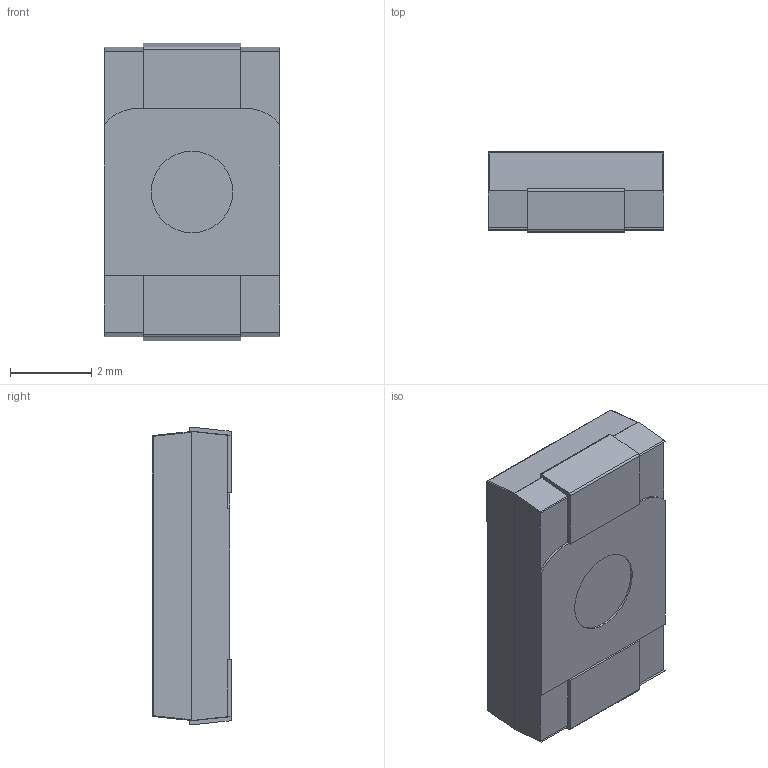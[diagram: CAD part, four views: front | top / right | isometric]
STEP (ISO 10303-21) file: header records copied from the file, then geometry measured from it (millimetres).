
FILE_DESCRIPTION((''),'2;1');
FILE_NAME('MLPC73X19_ASM','2020-05-30T',('xy'),(''),'PRO/ENGINEER BY PARAMETRIC TECHNOLOGY CORPORATION, 2009380','PRO/ENGINEER BY PARAMETRIC TECHNOLOGY CORPORATION, 2009380','');
FILE_SCHEMA(('CONFIG_CONTROL_DESIGN'));
Length unit declared in the file: millimetre
Products named in the file (7): CP01-1; CP02; CP03; CP04; CP05; CP06; MLPC73X19_ASM
Assembly tree (17 placements, depth 2):
  MLPC73X19_ASM
    CP01-1
    CP02  x6
    CP03  x6
    CP04
    CP05
    CP06  x2
Bounding box: 4.3 x 1.96 x 7.31 mm (x, y, z)
Volume: 44.7 mm3; surface area: 587.9 mm2
Topology: 18 solids, 18 shells, 344 faces, 868 edges, 572 vertices
Faces by surface type: plane 308, cylinder 30, sphere 4, torus 2
Entity records: 8724 total; most frequent: CARTESIAN_POINT 1542, ORIENTED_EDGE 1472, DIRECTION 1394, EDGE_CURVE 736, VECTOR 670, LINE 670, VERTEX_POINT 484, AXIS2_PLACEMENT_3D 362
